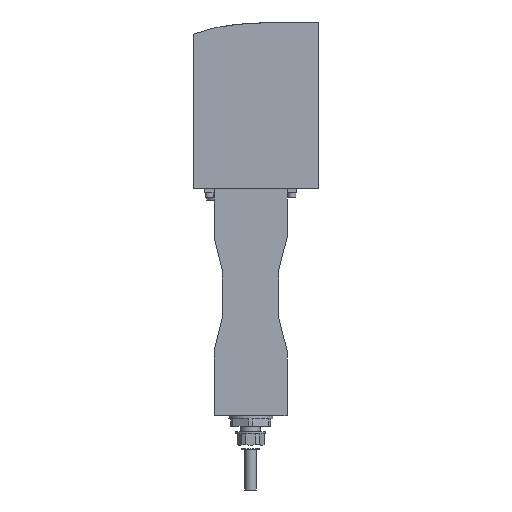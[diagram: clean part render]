
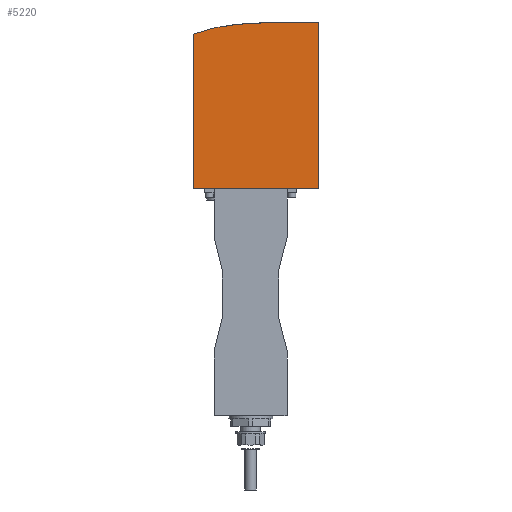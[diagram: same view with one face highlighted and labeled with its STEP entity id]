
A CAD part, left-side view. The second image highlights one B-rep face of the part: STEP entity #5220.
In plain terms, the highlighted planar face has unit normal (-1, 0, 0).
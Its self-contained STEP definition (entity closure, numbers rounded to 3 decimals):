
#16=B_SPLINE_CURVE_WITH_KNOTS('',3,(#8558,#8559,#8560,#8561,#8562,#8563,
#8564,#8565,#8566,#8567,#8568,#8569,#8570,#8571,#8572,#8573,#8574,#8575,
#8576,#8577,#8578,#8579,#8580,#8581,#8582,#8583,#8584,#8585,#8586,#8587,
#8588,#8589,#8590,#8591,#8592,#8593,#8594,#8595,#8596,#8597,#8598,#8599,
#8600),.UNSPECIFIED.,.F.,.F.,(4,3,3,3,3,3,3,3,3,3,3,3,3,3,4),(3.476,
5.885,6.982,8.293,12.737,16.98,
19.013,20.982,22.924,24.865,28.75,
30.956,31.864,32.726,39.779),
 .UNSPECIFIED.);
#310=PLANE('',#5682);
#701=FACE_OUTER_BOUND('',#1069,.T.);
#1069=EDGE_LOOP('',(#4669,#4670,#4671,#4672,#4673));
#1559=LINE('',#8469,#2070);
#1570=LINE('',#8510,#2081);
#1574=LINE('',#8602,#2085);
#1575=LINE('',#8603,#2086);
#2070=VECTOR('',#6944,1000.);
#2081=VECTOR('',#6993,10.);
#2085=VECTOR('',#7003,1.773);
#2086=VECTOR('',#7004,1000.);
#2707=VERTEX_POINT('',#8467);
#2708=VERTEX_POINT('',#8468);
#2719=VERTEX_POINT('',#8509);
#2723=VERTEX_POINT('',#8557);
#2724=VERTEX_POINT('',#8601);
#3360=EDGE_CURVE('',#2707,#2708,#1559,.T.);
#3379=EDGE_CURVE('',#2719,#2708,#1570,.T.);
#3385=EDGE_CURVE('',#2723,#2719,#16,.T.);
#3386=EDGE_CURVE('',#2724,#2723,#1574,.T.);
#3387=EDGE_CURVE('',#2724,#2707,#1575,.T.);
#4669=ORIENTED_EDGE('',*,*,#3385,.F.);
#4670=ORIENTED_EDGE('',*,*,#3386,.F.);
#4671=ORIENTED_EDGE('',*,*,#3387,.T.);
#4672=ORIENTED_EDGE('',*,*,#3360,.T.);
#4673=ORIENTED_EDGE('',*,*,#3379,.F.);
#5220=ADVANCED_FACE('',(#701),#310,.F.);
#5682=AXIS2_PLACEMENT_3D('',#8556,#7001,#7002);
#6944=DIRECTION('',(0.,0.,1.));
#6993=DIRECTION('',(0.,-1.,0.));
#7001=DIRECTION('center_axis',(1.,0.,0.));
#7002=DIRECTION('ref_axis',(0.,0.,
-1.));
#7003=DIRECTION('',(0.,0.,1.));
#7004=DIRECTION('',(0.,-1.,0.));
#8467=CARTESIAN_POINT('',(-68.,0.,-108.));
#8468=CARTESIAN_POINT('',(-68.,0.,98.));
#8469=CARTESIAN_POINT('',(-68.,0.,-108.));
#8509=CARTESIAN_POINT('',(-68.,10.,98.));
#8510=CARTESIAN_POINT('',(-68.,5.,98.));
#8556=CARTESIAN_POINT('Origin',(-68.,10.,-108.));
#8557=CARTESIAN_POINT('',(-68.,155.,83.));
#8558=CARTESIAN_POINT('Ctrl Pts',(-68.,155.,83.));
#8559=CARTESIAN_POINT('Ctrl Pts',(-68.,151.446,84.408));
#8560=CARTESIAN_POINT('Ctrl Pts',(-68.,149.456,85.097));
#8561=CARTESIAN_POINT('Ctrl Pts',(-68.,146.74,85.994));
#8562=CARTESIAN_POINT('Ctrl Pts',(-68.,145.503,86.402));
#8563=CARTESIAN_POINT('Ctrl Pts',(-68.,144.049,86.863));
#8564=CARTESIAN_POINT('Ctrl Pts',(-68.,142.64,87.287));
#8565=CARTESIAN_POINT('Ctrl Pts',(-68.,140.956,87.793));
#8566=CARTESIAN_POINT('Ctrl Pts',(-68.,139.259,88.274));
#8567=CARTESIAN_POINT('Ctrl Pts',(-68.,137.549,88.731));
#8568=CARTESIAN_POINT('Ctrl Pts',(-68.,131.756,90.278));
#8569=CARTESIAN_POINT('Ctrl Pts',(-68.,125.808,91.548));
#8570=CARTESIAN_POINT('Ctrl Pts',(-68.,119.668,92.593));
#8571=CARTESIAN_POINT('Ctrl Pts',(-68.,113.803,93.591));
#8572=CARTESIAN_POINT('Ctrl Pts',(-68.,107.763,94.384));
#8573=CARTESIAN_POINT('Ctrl Pts',(-68.,101.511,95.017));
#8574=CARTESIAN_POINT('Ctrl Pts',(-68.,98.517,95.321));
#8575=CARTESIAN_POINT('Ctrl Pts',(-68.,95.474,95.588));
#8576=CARTESIAN_POINT('Ctrl Pts',(-68.,92.379,95.825));
#8577=CARTESIAN_POINT('Ctrl Pts',(-68.,89.381,96.054));
#8578=CARTESIAN_POINT('Ctrl Pts',(-68.,86.326,96.256));
#8579=CARTESIAN_POINT('Ctrl Pts',(-68.,83.235,96.432));
#8580=CARTESIAN_POINT('Ctrl Pts',(-68.,80.188,96.606));
#8581=CARTESIAN_POINT('Ctrl Pts',(-68.,77.138,96.753));
#8582=CARTESIAN_POINT('Ctrl Pts',(-68.,74.087,96.878));
#8583=CARTESIAN_POINT('Ctrl Pts',(-68.,71.037,97.003));
#8584=CARTESIAN_POINT('Ctrl Pts',(-68.,67.987,97.106));
#8585=CARTESIAN_POINT('Ctrl Pts',(-68.,64.936,97.192));
#8586=CARTESIAN_POINT('Ctrl Pts',(-68.,58.83,97.364));
#8587=CARTESIAN_POINT('Ctrl Pts',(-68.,52.724,97.469));
#8588=CARTESIAN_POINT('Ctrl Pts',(-68.,46.626,97.546));
#8589=CARTESIAN_POINT('Ctrl Pts',(-68.,43.164,97.589));
#8590=CARTESIAN_POINT('Ctrl Pts',(-68.,39.705,97.624));
#8591=CARTESIAN_POINT('Ctrl Pts',(-68.,36.249,97.657));
#8592=CARTESIAN_POINT('Ctrl Pts',(-68.,34.826,97.671));
#8593=CARTESIAN_POINT('Ctrl Pts',(-68.,33.384,97.685));
#8594=CARTESIAN_POINT('Ctrl Pts',(-68.,31.986,97.698));
#8595=CARTESIAN_POINT('Ctrl Pts',(-68.,30.659,97.711));
#8596=CARTESIAN_POINT('Ctrl Pts',(-68.,29.439,97.723));
#8597=CARTESIAN_POINT('Ctrl Pts',(-68.,28.312,97.735));
#8598=CARTESIAN_POINT('Ctrl Pts',(-68.,19.088,97.829));
#8599=CARTESIAN_POINT('Ctrl Pts',(-68.,16.002,97.874));
#8600=CARTESIAN_POINT('Ctrl Pts',(-68.,10.,98.));
#8601=CARTESIAN_POINT('',(-68.,155.,-108.));
#8602=CARTESIAN_POINT('',(-68.,155.,78.));
#8603=CARTESIAN_POINT('',(-68.,10.,-108.));
